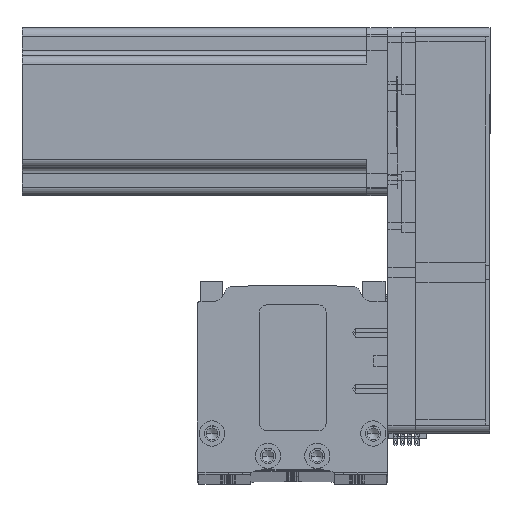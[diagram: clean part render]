
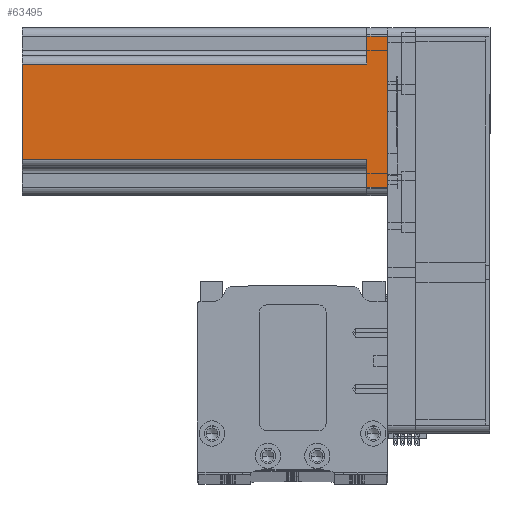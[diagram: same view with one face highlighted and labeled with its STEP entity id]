
A CAD part, top view. The second image highlights one B-rep face of the part: STEP entity #63495.
In plain terms, the highlighted planar face has unit normal (0, 0, 1) as drawn and (0, -1, 0) by its records, which use the part's own axes.
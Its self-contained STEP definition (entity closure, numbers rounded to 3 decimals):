
#703 = CARTESIAN_POINT ( 'NONE',  ( -20., -30., 7.5 ) ) ;
#2587 = LINE ( 'NONE', #703, #31764 ) ;
#3557 = ORIENTED_EDGE ( 'NONE', *, *, #66634, .F. ) ;
#4334 = FACE_OUTER_BOUND ( 'NONE', #12367, .T. ) ;
#4675 = CARTESIAN_POINT ( 'NONE',  ( 27., -30., 0. ) ) ;
#7906 = DIRECTION ( 'NONE',  ( 1., 0., 0. ) ) ;
#8011 = EDGE_CURVE ( 'NONE', #61627, #49221, #17071, .T. ) ;
#9500 = EDGE_CURVE ( 'NONE', #49221, #24924, #25432, .T. ) ;
#10117 = AXIS2_PLACEMENT_3D ( 'NONE', #21160, #59408, #26641 ) ;
#10513 = VECTOR ( 'NONE', #38580, 1000. ) ;
#12259 = CARTESIAN_POINT ( 'NONE',  ( 27., -30., 7.5 ) ) ;
#12367 = EDGE_LOOP ( 'NONE', ( #3557, #54499, #43193, #28017, #33905, #25567, #27241, #54697 ) ) ;
#13432 = CARTESIAN_POINT ( 'NONE',  ( 17., -30., 130.7 ) ) ;
#16786 = LINE ( 'NONE', #13432, #42521 ) ;
#17071 = LINE ( 'NONE', #61709, #59032 ) ;
#18001 = DIRECTION ( 'NONE',  ( 1., 0., 0. ) ) ;
#18923 = DIRECTION ( 'NONE',  ( 0., 0., 1. ) ) ;
#21160 = CARTESIAN_POINT ( 'NONE',  ( 30., -30., 130.7 ) ) ;
#22248 = VERTEX_POINT ( 'NONE', #41774 ) ;
#22574 = EDGE_CURVE ( 'NONE', #22248, #67840, #2587, .T. ) ;
#24372 = VECTOR ( 'NONE', #60664, 1000. ) ;
#24924 = VERTEX_POINT ( 'NONE', #46133 ) ;
#25130 = LINE ( 'NONE', #27536, #10513 ) ;
#25432 = LINE ( 'NONE', #29898, #68993 ) ;
#25567 = ORIENTED_EDGE ( 'NONE', *, *, #8011, .T. ) ;
#26067 = LINE ( 'NONE', #60887, #24372 ) ;
#26641 = DIRECTION ( 'NONE',  ( -1., 0., 0. ) ) ;
#26985 = VERTEX_POINT ( 'NONE', #68851 ) ;
#27241 = ORIENTED_EDGE ( 'NONE', *, *, #9500, .T. ) ;
#27536 = CARTESIAN_POINT ( 'NONE',  ( -27., -30., 130.7 ) ) ;
#28017 = ORIENTED_EDGE ( 'NONE', *, *, #53816, .T. ) ;
#29002 = DIRECTION ( 'NONE',  ( 0., 0., 1. ) ) ;
#29275 = DIRECTION ( 'NONE',  ( 0., 0., -1. ) ) ;
#29898 = CARTESIAN_POINT ( 'NONE',  ( 20., -30., 7.5 ) ) ;
#31764 = VECTOR ( 'NONE', #18001, 1000. ) ;
#32085 = VERTEX_POINT ( 'NONE', #46708 ) ;
#33905 = ORIENTED_EDGE ( 'NONE', *, *, #53348, .T. ) ;
#38012 = LINE ( 'NONE', #46317, #52554 ) ;
#38580 = DIRECTION ( 'NONE',  ( 0., 0., -1. ) ) ;
#41577 = CARTESIAN_POINT ( 'NONE',  ( -17., -30., 7.5 ) ) ;
#41774 = CARTESIAN_POINT ( 'NONE',  ( -27., -30., 7.5 ) ) ;
#42290 = EDGE_CURVE ( 'NONE', #24924, #53768, #16786, .T. ) ;
#42521 = VECTOR ( 'NONE', #18923, 1000. ) ;
#43193 = ORIENTED_EDGE ( 'NONE', *, *, #22574, .F. ) ;
#44645 = CARTESIAN_POINT ( 'NONE',  ( -17., -30., 130.7 ) ) ;
#46133 = CARTESIAN_POINT ( 'NONE',  ( 17., -30., 7.5 ) ) ;
#46317 = CARTESIAN_POINT ( 'NONE',  ( 30., -30., 130.7 ) ) ;
#46708 = CARTESIAN_POINT ( 'NONE',  ( -17., -30., 130.7 ) ) ;
#49221 = VERTEX_POINT ( 'NONE', #12259 ) ;
#52554 = VECTOR ( 'NONE', #7906, 1000. ) ;
#53348 = EDGE_CURVE ( 'NONE', #26985, #61627, #26067, .T. ) ;
#53680 = PLANE ( 'NONE',  #10117 ) ;
#53768 = VERTEX_POINT ( 'NONE', #70514 ) ;
#53816 = EDGE_CURVE ( 'NONE', #22248, #26985, #25130, .T. ) ;
#53825 = VECTOR ( 'NONE', #29275, 1000. ) ;
#54499 = ORIENTED_EDGE ( 'NONE', *, *, #60898, .T. ) ;
#54697 = ORIENTED_EDGE ( 'NONE', *, *, #42290, .T. ) ;
#55566 = LINE ( 'NONE', #44645, #53825 ) ;
#59032 = VECTOR ( 'NONE', #29002, 1000. ) ;
#59408 = DIRECTION ( 'NONE',  ( 0., 1., 0. ) ) ;
#60664 = DIRECTION ( 'NONE',  ( 1., 0., 0. ) ) ;
#60887 = CARTESIAN_POINT ( 'NONE',  ( 30., -30., 0. ) ) ;
#60898 = EDGE_CURVE ( 'NONE', #32085, #67840, #55566, .T. ) ;
#61627 = VERTEX_POINT ( 'NONE', #4675 ) ;
#61709 = CARTESIAN_POINT ( 'NONE',  ( 27., -30., 130.7 ) ) ;
#62814 = DIRECTION ( 'NONE',  ( -1., 0., 0. ) ) ;
#63495 = ADVANCED_FACE ( 'NONE', ( #4334 ), #53680, .F. ) ;
#66634 = EDGE_CURVE ( 'NONE', #32085, #53768, #38012, .T. ) ;
#67840 = VERTEX_POINT ( 'NONE', #41577 ) ;
#68851 = CARTESIAN_POINT ( 'NONE',  ( -27., -30., 0. ) ) ;
#68993 = VECTOR ( 'NONE', #62814, 1000. ) ;
#70514 = CARTESIAN_POINT ( 'NONE',  ( 17., -30., 130.7 ) ) ;
